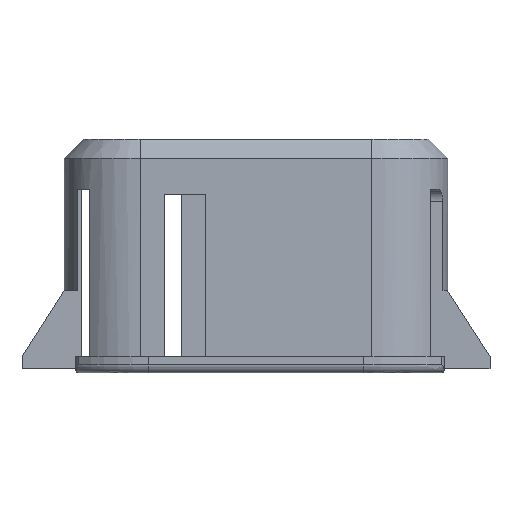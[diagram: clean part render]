
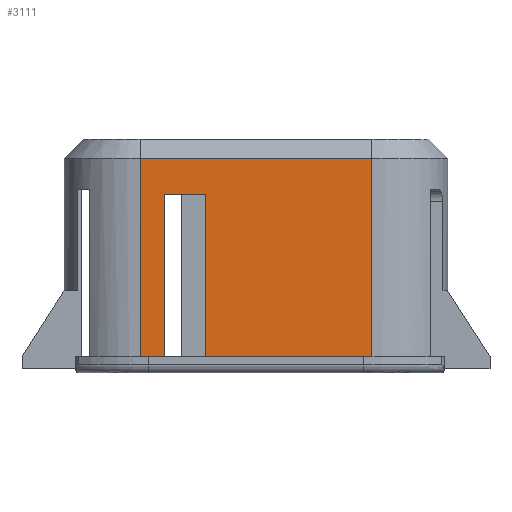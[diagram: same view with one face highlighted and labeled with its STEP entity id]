
A CAD part, front view. The second image highlights one B-rep face of the part: STEP entity #3111.
In plain terms, the highlighted planar face has unit normal (0, -1, 0).
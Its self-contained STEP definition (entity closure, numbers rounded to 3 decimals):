
#484=DIRECTION('',(0.,0.,-1.));
#485=VECTOR('',#484,12.268);
#486=CARTESIAN_POINT('',(-7.176,-8.255,-1.194));
#487=LINE('',#486,#485);
#488=DIRECTION('',(1.,0.,0.));
#489=VECTOR('',#488,14.351);
#490=CARTESIAN_POINT('',(-7.176,-8.255,-1.194));
#491=LINE('',#490,#489);
#492=DIRECTION('',(-1.,0.,0.));
#493=VECTOR('',#492,10.325);
#494=CARTESIAN_POINT('',(7.176,-8.255,-13.462));
#495=LINE('',#494,#493);
#496=DIRECTION('',(0.,0.,1.));
#497=VECTOR('',#496,10.033);
#498=CARTESIAN_POINT('',(-3.15,-8.255,-13.462));
#499=LINE('',#498,#497);
#500=DIRECTION('',(1.,0.,0.));
#501=VECTOR('',#500,2.54);
#502=CARTESIAN_POINT('',(-5.69,-8.255,-3.429));
#503=LINE('',#502,#501);
#504=DIRECTION('',(0.,0.,1.));
#505=VECTOR('',#504,10.033);
#506=CARTESIAN_POINT('',(-5.69,-8.255,-13.462));
#507=LINE('',#506,#505);
#508=DIRECTION('',(-1.,0.,0.));
#509=VECTOR('',#508,1.486);
#510=CARTESIAN_POINT('',(-5.69,-8.255,-13.462));
#511=LINE('',#510,#509);
#1760=DIRECTION('',(0.,0.,-1.));
#1761=VECTOR('',#1760,12.268);
#1762=CARTESIAN_POINT('',(7.176,-8.255,-1.194));
#1763=LINE('',#1762,#1761);
#2048=CARTESIAN_POINT('',(-3.15,-8.255,-3.429));
#2050=VERTEX_POINT('',#2048);
#2051=CARTESIAN_POINT('',(-5.69,-8.255,-3.429));
#2053=VERTEX_POINT('',#2051);
#2179=CARTESIAN_POINT('',(-3.15,-8.255,-13.462));
#2180=VERTEX_POINT('',#2179);
#2181=CARTESIAN_POINT('',(-5.69,-8.255,-13.462));
#2182=VERTEX_POINT('',#2181);
#2203=CARTESIAN_POINT('',(7.176,-8.255,-13.462));
#2204=VERTEX_POINT('',#2203);
#2205=CARTESIAN_POINT('',(-7.176,-8.255,-13.462));
#2206=VERTEX_POINT('',#2205);
#2387=CARTESIAN_POINT('',(-7.176,-8.255,-1.194));
#2388=VERTEX_POINT('',#2387);
#2389=CARTESIAN_POINT('',(7.176,-8.255,-1.194));
#2390=VERTEX_POINT('',#2389);
#3089=CARTESIAN_POINT('',(-7.176,-8.255,-13.462));
#3090=DIRECTION('',(0.,-1.,0.));
#3091=DIRECTION('',(1.,0.,0.));
#3092=AXIS2_PLACEMENT_3D('',#3089,#3090,#3091);
#3093=PLANE('',#3092);
#3094=ORIENTED_EDGE('',*,*,#3062,.F.);
#3096=ORIENTED_EDGE('',*,*,#3095,.T.);
#3098=ORIENTED_EDGE('',*,*,#3097,.T.);
#3100=ORIENTED_EDGE('',*,*,#3099,.T.);
#3102=ORIENTED_EDGE('',*,*,#3101,.T.);
#3104=ORIENTED_EDGE('',*,*,#3103,.F.);
#3106=ORIENTED_EDGE('',*,*,#3105,.F.);
#3108=ORIENTED_EDGE('',*,*,#3107,.T.);
#3109=EDGE_LOOP('',(#3094,#3096,#3098,#3100,#3102,#3104,#3106,#3108));
#3110=FACE_OUTER_BOUND('',#3109,.F.);
#3111=ADVANCED_FACE('',(#3110),#3093,.T.);
#3062=EDGE_CURVE('',#2388,#2206,#487,.T.);
#3095=EDGE_CURVE('',#2388,#2390,#491,.T.);
#3097=EDGE_CURVE('',#2390,#2204,#1763,.T.);
#3099=EDGE_CURVE('',#2204,#2180,#495,.T.);
#3101=EDGE_CURVE('',#2180,#2050,#499,.T.);
#3103=EDGE_CURVE('',#2053,#2050,#503,.T.);
#3105=EDGE_CURVE('',#2182,#2053,#507,.T.);
#3107=EDGE_CURVE('',#2182,#2206,#511,.T.);
